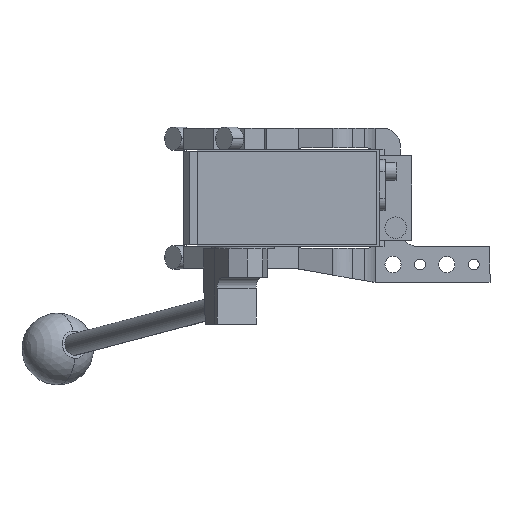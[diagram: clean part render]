
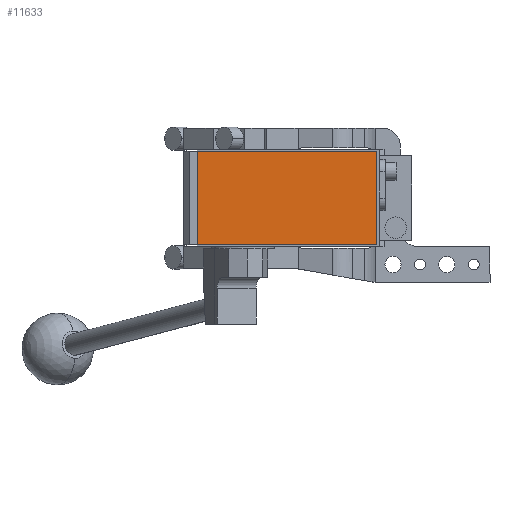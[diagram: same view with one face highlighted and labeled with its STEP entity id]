
A CAD part, front view. The second image highlights one B-rep face of the part: STEP entity #11633.
In plain terms, the highlighted planar face has unit normal (0, -1, 0).
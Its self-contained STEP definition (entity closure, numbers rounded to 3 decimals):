
#366 = FACE_OUTER_BOUND ( 'NONE', #9093, .T. ) ;
#594 = ORIENTED_EDGE ( 'NONE', *, *, #6785, .T. ) ;
#831 = CARTESIAN_POINT ( 'NONE',  ( 81., -286.5, -26. ) ) ;
#847 = CARTESIAN_POINT ( 'NONE',  ( -19., -286.5, 26. ) ) ;
#1703 = EDGE_CURVE ( 'NONE', #8210, #13245, #5572, .T. ) ;
#1772 = VECTOR ( 'NONE', #10234, 1000. ) ;
#1847 = EDGE_CURVE ( 'NONE', #12698, #12361, #7358, .T. ) ;
#2298 = VECTOR ( 'NONE', #3973, 1000. ) ;
#3011 = ORIENTED_EDGE ( 'NONE', *, *, #1847, .T. ) ;
#3664 = CARTESIAN_POINT ( 'NONE',  ( -19., -286.5, -26. ) ) ;
#3973 = DIRECTION ( 'NONE',  ( 1., 0., 0. ) ) ;
#4912 = VECTOR ( 'NONE', #7353, 1000. ) ;
#5185 = DIRECTION ( 'NONE',  ( 0., -1., 0. ) ) ;
#5369 = AXIS2_PLACEMENT_3D ( 'NONE', #9766, #5185, #14438 ) ;
#5535 = LINE ( 'NONE', #11261, #7774 ) ;
#5572 = LINE ( 'NONE', #14973, #1772 ) ;
#6785 = EDGE_CURVE ( 'NONE', #13245, #12698, #5535, .T. ) ;
#7353 = DIRECTION ( 'NONE',  ( 0., 0., 1. ) ) ;
#7358 = LINE ( 'NONE', #13230, #2298 ) ;
#7639 = CARTESIAN_POINT ( 'NONE',  ( 81., -286.5, 26. ) ) ;
#7722 = ORIENTED_EDGE ( 'NONE', *, *, #1703, .T. ) ;
#7774 = VECTOR ( 'NONE', #14933, 1000. ) ;
#8210 = VERTEX_POINT ( 'NONE', #11271 ) ;
#9093 = EDGE_LOOP ( 'NONE', ( #594, #3011, #12976, #7722 ) ) ;
#9766 = CARTESIAN_POINT ( 'NONE',  ( 0., -286.5, 0. ) ) ;
#10234 = DIRECTION ( 'NONE',  ( -1., 0., 0. ) ) ;
#11261 = CARTESIAN_POINT ( 'NONE',  ( -19., -286.5, 26. ) ) ;
#11271 = CARTESIAN_POINT ( 'NONE',  ( 81., -286.5, 26. ) ) ;
#11611 = EDGE_CURVE ( 'NONE', #12361, #8210, #13150, .T. ) ;
#11633 = ADVANCED_FACE ( 'NONE', ( #366 ), #13224, .T. ) ;
#12361 = VERTEX_POINT ( 'NONE', #831 ) ;
#12698 = VERTEX_POINT ( 'NONE', #3664 ) ;
#12976 = ORIENTED_EDGE ( 'NONE', *, *, #11611, .T. ) ;
#13150 = LINE ( 'NONE', #7639, #4912 ) ;
#13224 = PLANE ( 'NONE',  #5369 ) ;
#13230 = CARTESIAN_POINT ( 'NONE',  ( -19., -286.5, -26. ) ) ;
#13245 = VERTEX_POINT ( 'NONE', #847 ) ;
#14438 = DIRECTION ( 'NONE',  ( 0., 0., -1. ) ) ;
#14933 = DIRECTION ( 'NONE',  ( 0., 0., -1. ) ) ;
#14973 = CARTESIAN_POINT ( 'NONE',  ( -19., -286.5, 26. ) ) ;
